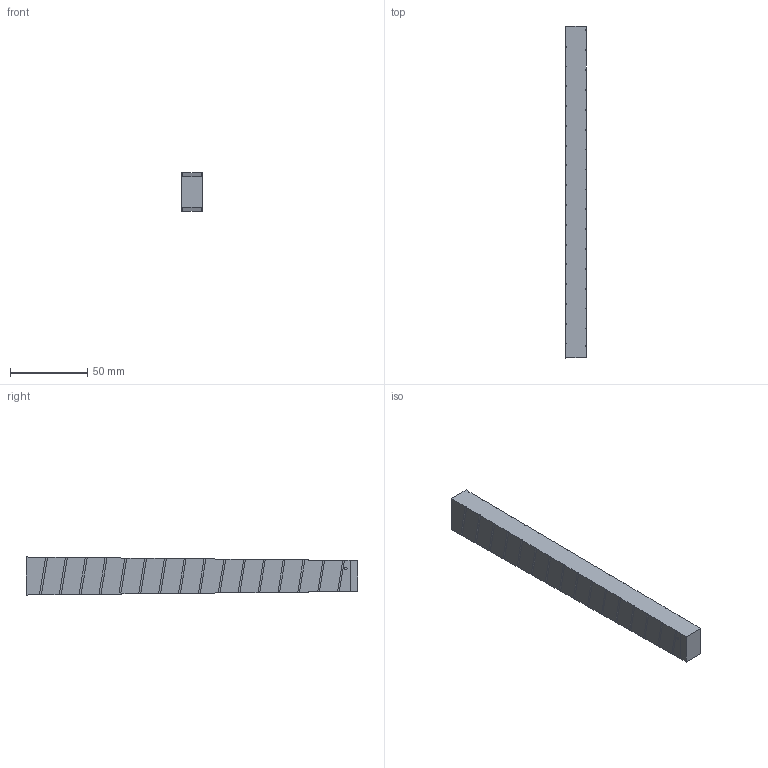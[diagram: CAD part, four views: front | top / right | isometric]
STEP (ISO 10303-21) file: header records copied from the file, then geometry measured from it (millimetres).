
FILE_DESCRIPTION(/* description */ (''),/* implementation_level */ '2;1');
FILE_NAME(/* name */ 'C:\Users\johne\Desktop\AR15 Mag Spring Bending Jig\Middle Section.stp',/* time_stamp */ '2018-12-05T17:40:32-06:00',/* author */ ('johne'),/* organization */ (''),/* preprocessor_version */ 'ST-DEVELOPER v16.13',/* originating_system */ 'Autodesk Inventor 2018',/* authorisation */ '');
FILE_SCHEMA (('AUTOMOTIVE_DESIGN { 1 0 10303 214 3 1 1 }'));
Length unit declared in the file: millimetre
Products named in the file (1): Middle Section
Bounding box: 13.53 x 214.55 x 24.58 mm (x, y, z)
Volume: 63649.5 mm3; surface area: 16056.9 mm2
Topology: 1 solids, 1 shells, 81 faces, 242 edges, 162 vertices
Faces by surface type: bspline 41, plane 40
Entity records: 3517 total; most frequent: CARTESIAN_POINT 1386, ORIENTED_EDGE 484, DIRECTION 399, EDGE_CURVE 242, VERTEX_POINT 162, LINE 149, VECTOR 149, AXIS2_PLACEMENT_3D 125
